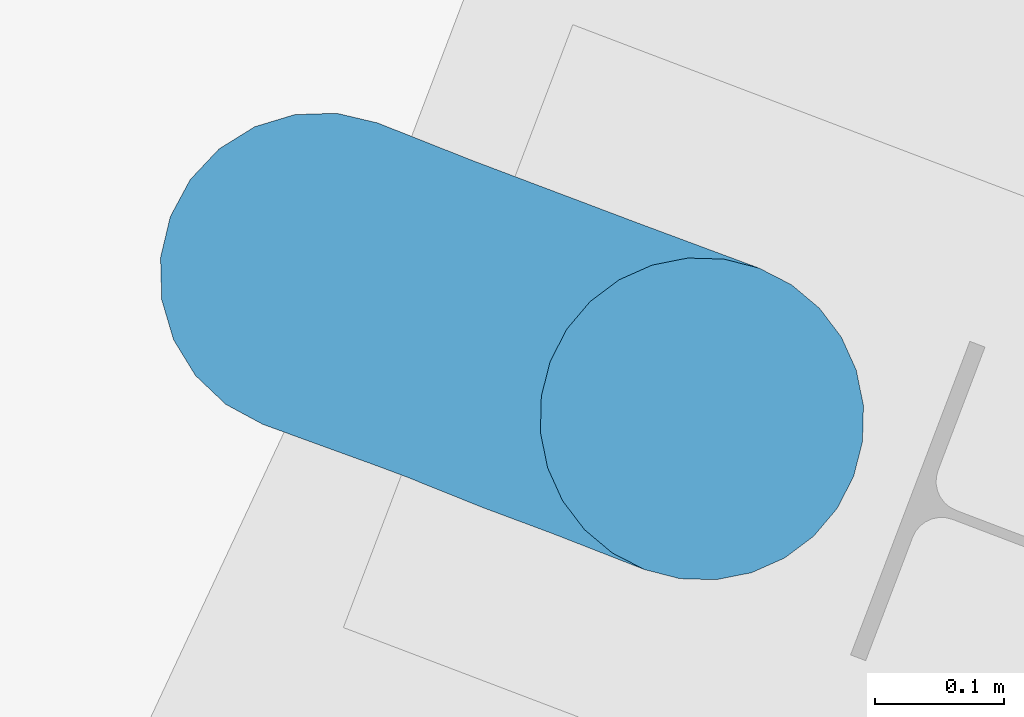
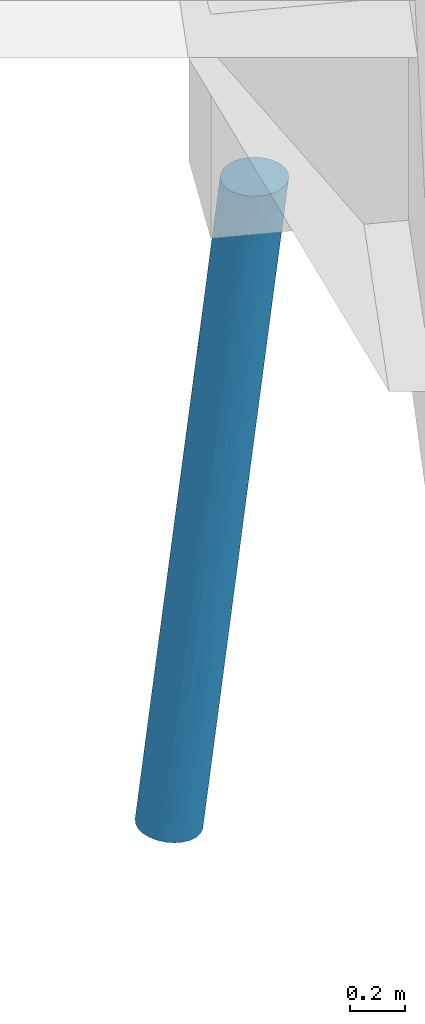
# One storey, part 21 of 46: 1 pile.
"""IFC2X3 building model written with IfcOpenShell, lengths in millimetres."""

from ifc_helpers import new_model, entity, si_unit, converted_unit, derived_unit, direction, frame, origin, place, context, subcontext, project, spatial, faceted_brep, source, transform, mapped, material, type_object, type_shapes, element, save


model = new_model("IFC2X3")

# Units and contexts
model_context = context("Model", 3, precision=0.01, world=origin(), true_north=direction((6.123233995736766e-17, 1.0)))
body_context = subcontext(model_context, "Body", "Model", "MODEL_VIEW")
ifc_project = project(units=[si_unit("LENGTHUNIT", "METRE", prefix="MILLI"), converted_unit("PLANEANGLEUNIT", "DEGREE", entity("IfcPlaneAngleMeasure", 0.017453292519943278), si_unit("PLANEANGLEUNIT", "RADIAN"), dimensions=[0, 0, 0, 0, 0, 0, 0]), si_unit("AREAUNIT", "SQUARE_METRE"), derived_unit("THERMALTRANSMITTANCEUNIT", [(si_unit("MASSUNIT", "GRAM", prefix="KILO"), 1), (si_unit("THERMODYNAMICTEMPERATUREUNIT", "KELVIN"), -1), (si_unit("TIMEUNIT", "SECOND"), -3)])], contexts=[model_context])

# Site, building, storey
site_placement = place(None, frame((-72937.88054949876, 11621.45624098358, 0.0), z_axis=(0.0, 0.0, 1.0), x_axis=(0.9346418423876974, -0.35559053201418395, 0.0)))
site = spatial("IfcSite", under=ifc_project, at=site_placement, Name="Default", CompositionType="ELEMENT")
building_placement = place(site_placement, origin())
building = spatial("IfcBuilding", under=site, at=building_placement, CompositionType="ELEMENT")
storey_placement = place(building_placement, origin())
storey = spatial("IfcBuildingStorey", under=building, at=storey_placement, Name="00 begane grond", CompositionType="ELEMENT", Elevation=0.0)

# Pile
ifc_material = material(Name="beton_gewapend_prefab-element_c45/55")
type_product = type_object("IfcTypeProduct", Name="Type 01", material=ifc_material)
shared_shape = source(origin(), body_context, "Body", "Brep", [
    faceted_brep([(124.838162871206, -27.815116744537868, -1150.0), (115.53639022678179, -54.2354673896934, -1150.0), (72.36643070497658, -41.239861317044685, -1587.2480771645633), (-111.09194578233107, -54.23546738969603, -1150.0), (-165.1894529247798, -41.33003827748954, -1588.444859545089), (-182.07875772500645, -65.1457063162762, -1842.6627389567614), (-30.14575159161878, -64.60051474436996, -2410.3553271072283), (32.98344934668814, -64.94314047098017, -1840.3127773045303), (15.031797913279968, -88.27496307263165, -1836.1297740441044), (41.77006032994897, 0.0, -1925.9925992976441), (100.55257203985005, -77.9362252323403, -1150.0), (80.6380595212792, -97.7289353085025, -1150.0), (-180.54618184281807, -99.16916754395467, -3483.986786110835), (-108.1734310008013, -106.74566752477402, -2732.5343267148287), (-175.6519081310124, -115.48494156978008, -3184.0354063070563), (-42.91884640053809, -117.90464735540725, -1932.203812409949), (56.79144948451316, -112.62110848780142, -1150.0), (30.20851053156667, -121.8659890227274, -1150.0), (-120.39371842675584, -27.81511674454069, -1150.0), (-242.98263969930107, -88.62069146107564, -2558.5627355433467), (-162.25875578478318, -88.50075404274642, -1830.9574517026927), (-245.70385641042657, -64.88368548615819, -2413.843724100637), (-194.4421984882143, -32.35238063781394, -4013.333582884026), (-133.56769714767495, -28.49629953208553, -3474.2266886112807), (-151.93048965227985, -53.33845094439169, -3561.073967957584), (12.222467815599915, -106.275938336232, -1655.8961403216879), (-23.42762089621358, -124.20079095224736, -1508.642990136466), (-80.64748703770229, -124.2366812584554, -1770.9263967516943), (-73.06982999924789, -124.27812918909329, -1949.101189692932), (-265.024992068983, -123.93060767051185, -3407.479310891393), (-314.4444444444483, -125.0, -4000.0), (-240.21076201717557, -123.93060767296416, -3479.642475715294), (-190.20897761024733, 0.0, -4013.803940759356), (-117.33081280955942, 0.0, -3357.900457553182), (-25.764066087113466, -121.86598902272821, -1150.0), (2.2222222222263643, -125.0, -1150.0), (-317.9689709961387, -23.60182842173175, -2920.157783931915), (-375.26894382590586, -28.366113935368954, -3445.0277270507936), (-326.96702366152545, -47.83542903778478, -3066.9425894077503), (-73.70805836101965, -23.187811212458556, -2945.6497765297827), (16.085837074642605, -41.18767244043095, -2093.938466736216), (-39.92708990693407, -41.47720200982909, -2597.136214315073), (-183.66520352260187, -123.01104339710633, -3024.1067526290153), (-196.28435151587, -123.47165352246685, -2760.09510592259), (-252.3267110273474, -108.25317547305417, -4006.901970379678), (-226.59670338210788, -88.38834764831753, -4009.7608601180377), (-206.8533741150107, -62.49999999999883, -4011.9545633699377), (-148.27550792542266, -76.09517863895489, -3402.494577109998), (-119.74622127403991, -106.37235269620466, -1653.229951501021), (-99.40312932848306, -118.21391771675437, -1696.7443345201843), (-52.347005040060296, -112.62110848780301, -1150.0), (-238.2779479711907, -106.2597512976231, -2718.3665211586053), (-185.92128902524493, -102.46025049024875, -2194.904710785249), (-42.820885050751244, -102.58547775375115, -2202.1491422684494), (-156.2252162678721, -118.09364807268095, -2204.9892079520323), (-264.72929865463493, -115.48494155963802, -3119.3954545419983), (-319.0271104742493, -115.48494156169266, -3608.075760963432), (-76.19361507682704, -97.72893530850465, -1150.0), (-96.10812759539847, -77.93622523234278, -1150.0), (-44.45199380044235, 0.0, -2701.9910864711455), (-1.3402226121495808, 0.0, -2313.985145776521), (-292.9202820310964, -72.79893776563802, -2886.1326580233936), (-292.6922084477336, -91.63383624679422, -3034.349570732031), (-282.2899395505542, -120.74072828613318, -4003.5727227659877), (-227.3188222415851, -115.48494156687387, -3649.037633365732), (-209.76851175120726, 0.0, -1925.9934634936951), (-221.60043037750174, -41.38232604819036, -2096.3096577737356), (-376.56217786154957, -108.25317547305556, -3993.0980296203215), (-346.59894933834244, -120.74072828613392, -3996.4272772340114), (-66.21715172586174, -88.15377228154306, -2568.4634430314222), (-129.97696806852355, -118.32629651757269, -2704.7019880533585), (-123.5470158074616, 0.0, -1150.0), (-377.52744650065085, -52.97984274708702, -3542.5215927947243), (-345.70385271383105, -76.09517862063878, -3383.3196685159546), (-275.8885685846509, -42.22399193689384, -2587.6075033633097), (-422.0355147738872, -62.50000000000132, -3988.0454366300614), (-402.29218550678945, -88.38834764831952, -3990.239139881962), (-331.8470727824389, -99.16916753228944, -3467.5525053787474), (-132.4434459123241, -124.68323586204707, -2281.458802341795), (-96.52658231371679, -47.8354290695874, -3084.4998642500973), (-89.11715414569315, -71.65077909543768, -2899.5648185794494), (127.99146025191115, 0.0, -1150.0), (-252.87925972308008, 0.0, -2313.9901952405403), (-122.93481462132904, -90.89446365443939, -3053.447507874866), (-434.4466904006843, -32.352380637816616, -3986.6664171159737), (-438.679911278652, 0.0, -3986.1960592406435), (-141.73877836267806, -124.16072599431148, -2576.5969257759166), (-210.06991733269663, -117.23436667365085, -2667.8819222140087), (-295.9900076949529, 0.0, -2701.9869269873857), (-367.3349594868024, 0.0, -3344.0914931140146), (124.83816287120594, 27.815116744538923, -1150.0), (115.53639022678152, 54.23546738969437, -1150.0), (100.55257203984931, 77.93622523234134, -1150.0), (80.63805952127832, 97.7289353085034, -1150.0), (56.79144948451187, 112.62110848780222, -1150.0), (30.20851053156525, 121.86598902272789, -1150.0), (2.22222222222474, 125.0, -1150.0), (-25.76406608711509, 121.86598902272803, -1150.0), (-52.34700504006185, 112.62110848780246, -1150.0), (-76.1936150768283, 97.72893530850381, -1150.0), (-96.10812759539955, 77.93622523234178, -1150.0), (-111.09194578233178, 54.23546738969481, -1150.0), (-120.39371842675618, 27.815116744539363, -1150.0), (-96.52658225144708, 47.83542901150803, -3084.4998639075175), (-133.5676976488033, 28.496299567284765, -3474.2266930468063), (-151.9304895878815, 53.338451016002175, -3561.073967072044), (-176.7825211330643, 87.58614607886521, -1953.453255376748), (-126.78568187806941, 88.44799753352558, -1511.2211246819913), (-140.32328536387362, 105.94191584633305, -1832.1538289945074), (-185.53475823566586, 41.3488976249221, -1771.6124540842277), (-98.5233768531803, 124.24251446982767, -1932.2861052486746), (-159.3540506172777, 67.83984168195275, -1653.46778938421), (-221.49211536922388, 66.66107193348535, -2205.8974607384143), (-402.2921855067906, 88.38834764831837, -3990.239139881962), (-352.8086337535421, 76.09517892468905, -3447.262699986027), (-312.10423006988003, 99.16916769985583, -3289.866922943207), (-282.2899395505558, 120.74072828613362, -4003.5727227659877), (-314.44444444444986, 125.0, -4000.0), (-235.4135805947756, 123.93060766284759, -3436.467843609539), (-362.94366171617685, 26.27355326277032, -3329.855963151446), (-328.2998352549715, 47.83542988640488, -3078.9378969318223), (-384.2243809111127, 47.83542945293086, -3582.258806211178), (-376.562177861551, 108.25317547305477, -3993.0980296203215), (-180.54618171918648, 99.16916751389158, -3483.9867853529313), (-148.27550783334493, 76.0951785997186, -3402.49457655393), (-226.59670338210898, 88.38834764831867, -4009.7608601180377), (-163.5203657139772, 118.46525212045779, -2280.489865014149), (-104.92272192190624, 118.27912572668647, -1748.143371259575), (-89.11715398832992, 71.6507788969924, -2899.5648184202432), (-39.927089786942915, 41.4772017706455, -2597.1362139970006), (-274.28881423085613, 82.15433137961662, -2785.484682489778), (-221.11735801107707, 106.04994682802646, -2560.8655013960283), (-422.03551477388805, 62.49999999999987, -3988.0454366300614), (-434.4466904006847, 32.35238063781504, -3986.6664171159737), (-180.90977316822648, 122.95522291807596, -3002.0876370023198), (-141.73877802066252, 124.16072595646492, -2576.596925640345), (-129.97696798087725, 118.32629644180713, -2704.701989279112), (-180.2811496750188, 124.04234815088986, -2652.685215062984), (-242.59310629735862, 123.930607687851, -3205.592340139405), (-232.5682987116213, 117.68101498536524, -2881.4778788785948), (-301.7888662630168, 115.48494161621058, -3452.931564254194), (-346.598949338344, 120.7407282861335, -3996.4272772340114), (-206.85337411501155, 62.50000000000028, -4011.9545633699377), (-42.918846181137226, 117.90464729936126, -1932.2038118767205), (-83.49872980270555, 124.18127902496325, -2050.8284888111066), (-29.55955353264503, 124.19873841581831, -1563.9938530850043), (15.03179802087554, 88.27496298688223, -1836.1297738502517), (32.983449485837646, 64.94314037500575, -1840.3127765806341), (-30.14575143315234, 64.60051457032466, -2410.3553266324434), (-42.820884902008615, 102.58547764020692, -2202.149142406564), (12.222467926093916, 106.27593827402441, -1655.89614023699), (-73.70805863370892, 23.18781108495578, -2945.6497792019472), (16.08583725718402, 41.18767230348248, -2093.9384655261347), (72.36643080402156, 41.2398612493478, -1587.2480764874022), (-221.94118502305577, 91.78881553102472, -2399.105716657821), (-108.17343087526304, 106.7456674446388, -2732.5343267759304), (-66.2171515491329, 88.15377212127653, -2568.463442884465), (-122.93481449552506, 90.89446347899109, -3053.447508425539), (-262.27997921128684, 34.77836369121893, -2443.29023072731), (-227.3188223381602, 115.48494155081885, -3649.037634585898), (-252.32671102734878, 108.25317547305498, -4006.901970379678), (-277.036285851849, 61.03344887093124, -2675.5040755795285), (-194.44219848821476, 32.35238063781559, -4013.333582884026), (-312.1095376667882, 26.52940126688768, -2872.8494770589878), (-175.65190824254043, 115.48494153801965, -3184.035408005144)], [[[0, 1, 2]], [[3, 4, 5]], [[6, 7, 8]], [[9, 0, 2]], [[8, 10, 11]], [[12, 13, 14]], [[15, 16, 17]], [[4, 3, 18]], [[19, 20, 21]], [[22, 23, 24]], [[11, 16, 25]], [[26, 27, 28]], [[29, 30, 31]], [[32, 33, 23]], [[10, 8, 7]], [[34, 27, 35]], [[36, 37, 38]], [[33, 39, 23]], [[40, 6, 41]], [[42, 43, 29]], [[44, 45, 12]], [[20, 5, 21]], [[26, 17, 35]], [[45, 46, 47]], [[48, 49, 50]], [[19, 51, 52]], [[53, 25, 15]], [[46, 24, 47]], [[48, 54, 49]], [[55, 56, 29]], [[57, 58, 20]], [[40, 59, 60, 9]], [[61, 62, 19]], [[2, 7, 40]], [[63, 44, 64]], [[65, 66, 4]], [[3, 5, 58]], [[20, 52, 48]], [[67, 68, 56]], [[29, 43, 55]], [[69, 53, 13]], [[13, 70, 14]], [[18, 71, 65]], [[72, 73, 38]], [[68, 30, 29]], [[74, 36, 38]], [[62, 51, 19]], [[38, 61, 74]], [[37, 72, 38]], [[75, 76, 73]], [[76, 77, 73]], [[57, 20, 48]], [[12, 45, 47]], [[6, 40, 7]], [[78, 54, 43]], [[27, 78, 28]], [[79, 41, 80]], [[81, 0, 9]], [[66, 65, 82]], [[41, 39, 59]], [[13, 12, 83]], [[76, 67, 77]], [[84, 37, 85]], [[21, 61, 19]], [[30, 63, 31]], [[31, 42, 29]], [[47, 80, 83]], [[64, 12, 14]], [[56, 77, 67]], [[51, 62, 77]], [[64, 31, 63]], [[14, 70, 42]], [[1, 10, 7]], [[9, 2, 40]], [[7, 2, 1]], [[6, 8, 69]], [[80, 6, 69]], [[6, 80, 41]], [[65, 4, 18]], [[5, 4, 66]], [[5, 66, 21]], [[58, 5, 20]], [[74, 21, 66]], [[61, 38, 73]], [[78, 43, 86]], [[55, 87, 51]], [[83, 80, 69]], [[79, 80, 47]], [[83, 69, 13]], [[47, 83, 12]], [[53, 69, 8]], [[70, 15, 86]], [[25, 53, 8]], [[70, 53, 15]], [[11, 25, 8]], [[15, 25, 16]], [[39, 41, 79]], [[59, 40, 41]], [[23, 39, 79]], [[33, 59, 39]], [[24, 23, 79]], [[32, 23, 22]], [[47, 24, 79]], [[22, 24, 46]], [[61, 21, 74]], [[62, 73, 77]], [[73, 62, 61]], [[51, 77, 55]], [[87, 55, 43]], [[19, 52, 20]], [[51, 54, 52]], [[27, 49, 54]], [[54, 48, 52]], [[57, 48, 50]], [[70, 13, 53]], [[42, 70, 86]], [[43, 42, 86]], [[14, 42, 31]], [[29, 56, 68]], [[74, 66, 82]], [[88, 89, 36, 82]], [[37, 36, 89]], [[85, 37, 89]], [[72, 84, 75]], [[84, 72, 37]], [[73, 72, 75]], [[43, 54, 87]], [[54, 51, 87]], [[36, 74, 82]], [[77, 56, 55]], [[28, 86, 15]], [[54, 78, 27]], [[86, 28, 78]], [[26, 15, 17]], [[27, 26, 35]], [[15, 26, 28]], [[12, 64, 44]], [[31, 64, 14]], [[27, 34, 49]], [[50, 49, 34]], [[34, 35, 17, 16, 11, 10, 1, 0, 81, 90, 91, 92, 93, 94, 95, 96, 97, 98, 99, 100, 101, 102, 71, 18, 3, 58, 57, 50]], [[103, 104, 105]], [[90, 81, 9]], [[106, 107, 108]], [[109, 102, 101]], [[110, 97, 96]], [[111, 112, 109]], [[113, 114, 115]], [[116, 117, 118]], [[98, 108, 99]], [[119, 120, 121]], [[113, 115, 122]], [[106, 112, 111]], [[123, 124, 125]], [[110, 126, 127]], [[119, 85, 89]], [[65, 71, 102]], [[103, 128, 129]], [[115, 130, 131]], [[108, 127, 126]], [[132, 133, 121]], [[134, 135, 136]], [[137, 138, 139]], [[140, 141, 122]], [[142, 125, 124]], [[143, 144, 145]], [[146, 147, 148]], [[146, 149, 150]], [[130, 115, 114]], [[151, 104, 103]], [[143, 136, 144]], [[9, 152, 153]], [[140, 122, 115]], [[143, 95, 94]], [[98, 97, 127]], [[92, 146, 93]], [[138, 140, 139]], [[131, 130, 154]], [[129, 151, 103]], [[117, 141, 138]], [[118, 117, 138]], [[155, 156, 157]], [[96, 95, 145]], [[109, 158, 65]], [[116, 159, 160]], [[143, 149, 136]], [[153, 91, 90]], [[105, 124, 103]], [[112, 158, 109]], [[146, 148, 156]], [[100, 111, 101]], [[128, 157, 156]], [[147, 92, 91]], [[91, 153, 147]], [[150, 93, 146]], [[156, 155, 149]], [[161, 158, 112]], [[65, 102, 109]], [[113, 132, 114]], [[139, 140, 115]], [[125, 160, 123]], [[152, 9, 60]], [[162, 104, 32]], [[148, 128, 156]], [[138, 137, 134]], [[163, 158, 120]], [[159, 118, 164]], [[121, 114, 132]], [[130, 161, 112]], [[161, 114, 120]], [[112, 106, 154]], [[139, 115, 131]], [[138, 141, 140]], [[163, 120, 119]], [[158, 88, 82, 65]], [[159, 123, 160]], [[155, 157, 123]], [[9, 153, 90]], [[147, 153, 152]], [[147, 152, 148]], [[92, 147, 146]], [[129, 148, 152]], [[128, 103, 124]], [[131, 126, 139]], [[135, 134, 137]], [[108, 126, 131]], [[110, 144, 137]], [[139, 126, 137]], [[110, 137, 126]], [[128, 148, 129]], [[157, 124, 123]], [[124, 157, 128]], [[155, 123, 164]], [[136, 155, 164]], [[156, 149, 146]], [[136, 149, 155]], [[150, 143, 94]], [[143, 150, 149]], [[93, 150, 94]], [[101, 111, 109]], [[129, 152, 60]], [[59, 33, 151]], [[104, 151, 33]], [[32, 104, 33]], [[105, 162, 142]], [[162, 105, 104]], [[124, 105, 142]], [[98, 127, 108]], [[97, 110, 127]], [[134, 164, 118]], [[136, 135, 144]], [[164, 134, 136]], [[138, 134, 118]], [[133, 85, 119]], [[114, 121, 120]], [[133, 119, 121]], [[163, 89, 88]], [[89, 163, 119]], [[88, 158, 163]], [[59, 151, 129]], [[60, 59, 129]], [[100, 99, 107]], [[111, 100, 107]], [[154, 108, 131]], [[108, 107, 99]], [[111, 107, 106]], [[137, 144, 135]], [[145, 110, 96]], [[143, 145, 95]], [[110, 145, 144]], [[118, 159, 116]], [[123, 159, 164]], [[114, 161, 130]], [[158, 161, 120]], [[112, 154, 130]], [[108, 154, 106]], [[141, 117, 116, 160, 125, 142, 162, 32, 22, 46, 45, 44, 63, 30, 68, 67, 76, 75, 84, 85, 133, 132, 113, 122]]]),
])
type_shapes(type_product, [shared_shape])
pile_placement = place(storey_placement, frame((66730.00015558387, 21880.0, 0.0)))
element("IfcPile", 1, at=pile_placement, inside=storey, type_object=type_product, material=ifc_material, Name="17.21_Prefab funderingspaal rond", ObjectType="prefab paal rond", PredefinedType="NOTDEFINED", context=body_context, shape_type="MappedRepresentation", body=[
    mapped(shared_shape, transform((0.0, 0.0, 0.0), scale=1.0)),
])

save(model, "model.ifc")
